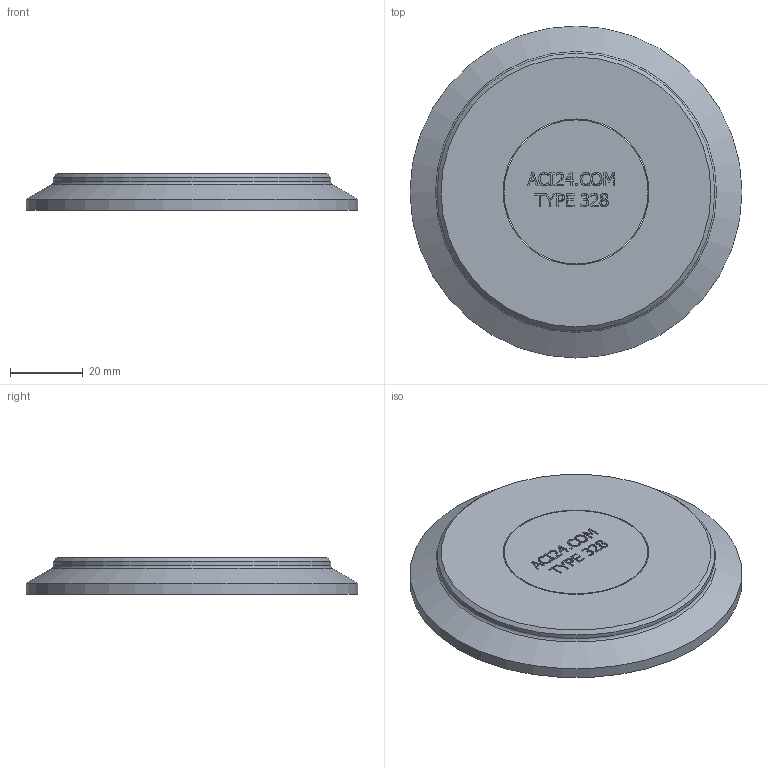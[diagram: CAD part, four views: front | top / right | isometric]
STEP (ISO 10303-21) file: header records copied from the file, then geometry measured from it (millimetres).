
FILE_DESCRIPTION(/* description */ ('ACI Typ 328 DN 65 PN 16'),/* implementation_level */ '2;1');
FILE_NAME(/* name */ 'C:\Users\willms\Desktop\ACI-328-65-10.stp',/* time_stamp */ '2020-09-01T16:12:33+02:00',/* author */ ('götz'),/* organization */ ('ACI Industriearmaturen GmbH info@aci24.com www.aci24.com'),/* preprocessor_version */ 'ST-DEVELOPER v16.1',/* originating_system */ 'Autodesk Inventor 2016',/* authorisation */ 'ACI Industriearmaturen GmbH info@aci24.com www.aci24.com');
FILE_SCHEMA (('CONFIG_CONTROL_DESIGN','AP203_CONFIGURATION_CONTROLLED_3D_DESIGN_OF_MECHANICAL_PARTS_AND_ASSEMBLIES_MIM_LF { 1 0 10303 203 3 1 4 }'));
Length unit declared in the file: centimetre
Products named in the file (1): ACI-328-65-10
Bounding box: 91 x 91 x 10 mm (x, y, z)
Volume: 54425.6 mm3; surface area: 17750.4 mm2
Topology: 2 solids, 2 shells, 270 faces, 725 edges, 482 vertices
Faces by surface type: plane 147, bspline 114, cylinder 4, cone 4, torus 1
Full cylindrical faces by diameter (mm): 39.5 x1, 40 x1, 76 x1, 91 x1
Entity records: 8972 total; most frequent: CARTESIAN_POINT 2951, ORIENTED_EDGE 1432, DIRECTION 816, EDGE_CURVE 716, VERTEX_POINT 482, LINE 474, VECTOR 474, EDGE_LOOP 304
